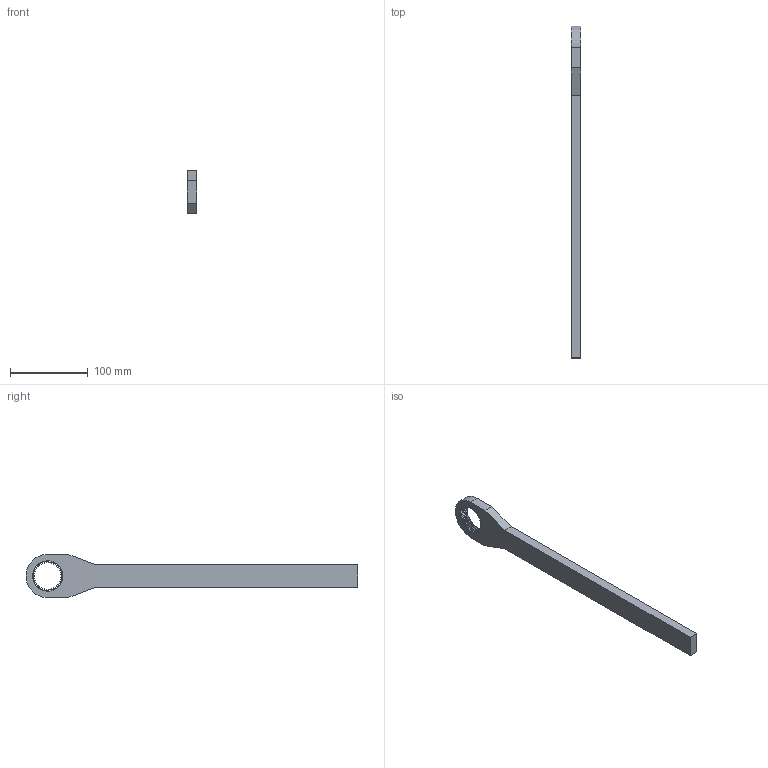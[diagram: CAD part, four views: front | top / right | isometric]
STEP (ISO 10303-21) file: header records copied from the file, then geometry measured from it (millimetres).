
FILE_DESCRIPTION((''),'2;1');
FILE_NAME('6158120970','2015-02-18T',('gredl'),(''),'PRO/ENGINEER BY PARAMETRIC TECHNOLOGY CORPORATION, 2014200','PRO/ENGINEER BY PARAMETRIC TECHNOLOGY CORPORATION, 2014200','');
FILE_SCHEMA(('AUTOMOTIVE_DESIGN { 1 0 10303 214 1 1 1 1 }'));
Length unit declared in the file: millimetre
Products named in the file (1): 6158120970
Bounding box: 12 x 428 x 56 mm (x, y, z)
Volume: 155044.4 mm3; surface area: 40047.4 mm2
Topology: 1 solids, 1 shells, 280 faces, 834 edges, 556 vertices
Faces by surface type: plane 144, cone 90, cylinder 46
Entity records: 10047 total; most frequent: CARTESIAN_POINT 2204, ORIENTED_EDGE 1668, DIRECTION 1396, EDGE_CURVE 834, VERTEX_POINT 556, VECTOR 472, LINE 472, AXIS2_PLACEMENT_3D 462
